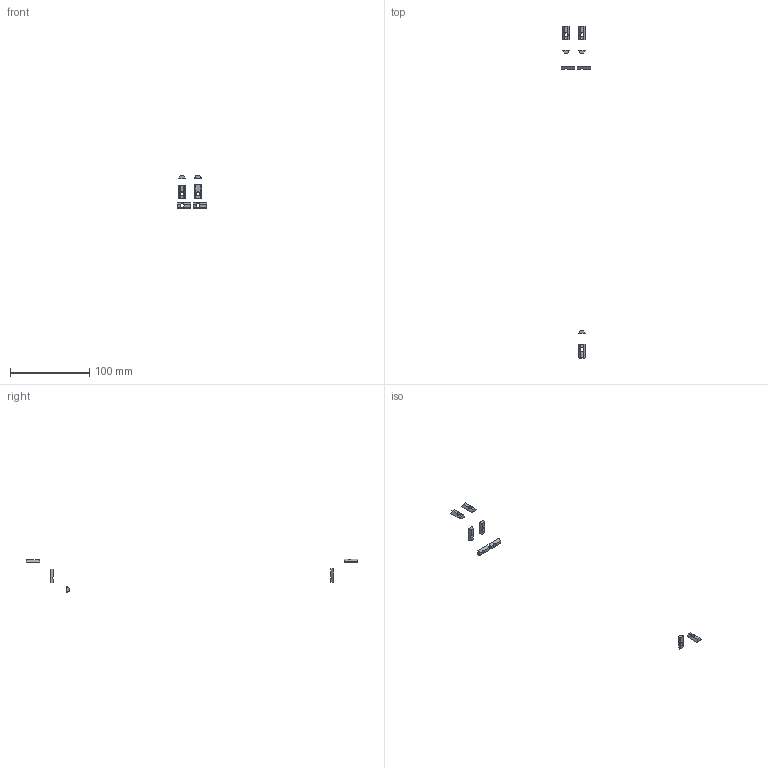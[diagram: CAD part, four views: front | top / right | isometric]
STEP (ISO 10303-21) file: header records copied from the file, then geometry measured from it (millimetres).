
FILE_DESCRIPTION(/* description */ (''),/* implementation_level */ '2;1');
FILE_NAME(/* name */ '10.optics-laser#10.1#HNTPZ5-5',/* time_stamp */ '2014-12-01T20:19:00+01:00',/* author */ (''),/* organization */ (''),/* preprocessor_version */ 'ST-DEVELOPER v14',/* originating_system */ '',/* authorisation */ '');
FILE_SCHEMA (('AUTOMOTIVE_DESIGN'));
Length unit declared in the file: millimetre
Products named in the file (2): Document; nut tslot, post, M5
Assembly tree (8 placements, depth 2):
  Document
    nut tslot, post, M5  x8
Bounding box: 37 x 418 x 42.35 mm (x, y, z)
Volume: 2520.1 mm3; surface area: 3356.1 mm2
Topology: 8 solids, 8 shells, 104 faces, 288 edges, 192 vertices
Faces by surface type: plane 88, bspline 16
Entity records: 1057 total; most frequent: CARTESIAN_POINT 467, B_SPLINE_CURVE_WITH_KNOTS 100, ORIENTED_EDGE 72, PCURVE 72, DEFINITIONAL_REPRESENTATION 72, SURFACE_CURVE 36, EDGE_CURVE 36, DIRECTION 32
